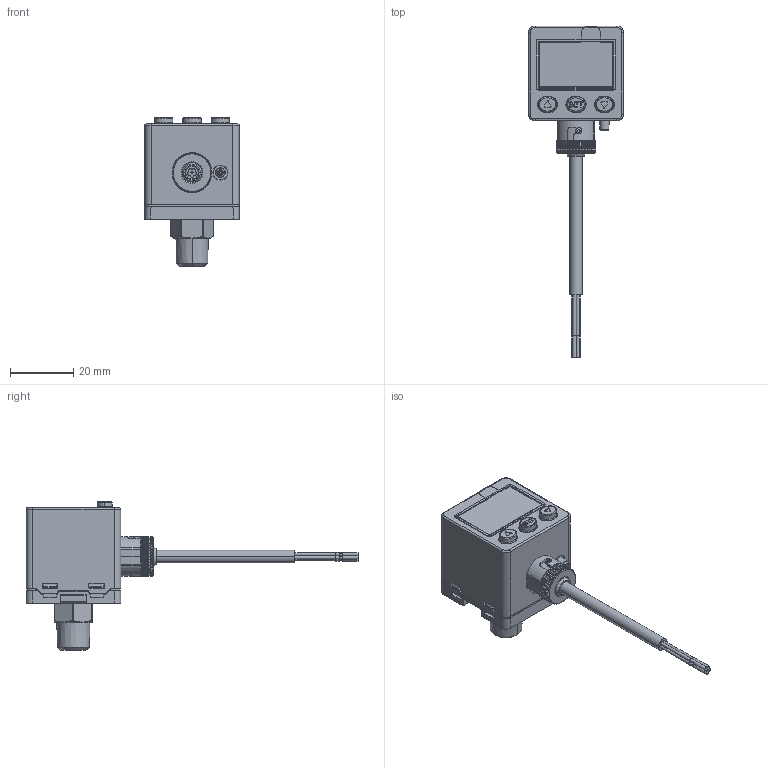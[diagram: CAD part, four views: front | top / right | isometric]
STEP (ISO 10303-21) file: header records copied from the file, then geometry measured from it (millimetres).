
FILE_DESCRIPTION((''),'2;1');
FILE_NAME('KP45X-X-F2','2019-07-05T',('Stark'),(''),'CREO PARAMETRIC BY PTC INC, 2014500','CREO PARAMETRIC BY PTC INC, 2014500','');
FILE_SCHEMA(('CONFIG_CONTROL_DESIGN'));
Products named in the file (1): KP45X-X-F2
Bounding box: 30.08 x 105.34 x 47.2 mm (x, y, z)
Volume: 29917.6 mm3; surface area: 9012.5 mm2
Topology: 1 solids, 23 shells, 1078 faces, 2784 edges, 1800 vertices
Faces by surface type: plane 427, cylinder 343, cone 142, bspline 128, torus 24, extrusion 10, sphere 4
Entity records: 50964 total; most frequent: CARTESIAN_POINT 26582, ORIENTED_EDGE 5564, DIRECTION 4217, EDGE_CURVE 2782, VERTEX_POINT 1800, AXIS2_PLACEMENT_3D 1460, VECTOR 1297, LINE 1287
